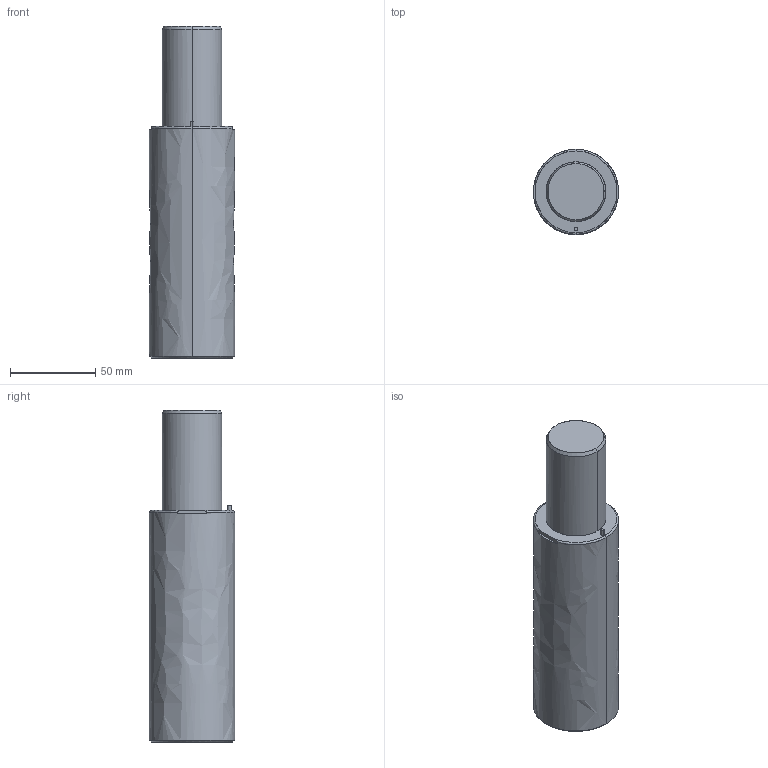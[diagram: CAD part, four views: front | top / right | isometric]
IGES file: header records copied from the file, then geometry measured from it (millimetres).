
Global section: file name: E:\UnigraphicsGraphicData\MISUMI_PRESS-PARTS\IGES\3d_gsx50-56_03981_r00.igs; native system: NX V5.0; preprocessor: UGS NX IGES V5.0; author: MISUMI; date: 20110105.160829; units: millimetre
Bounding box: 50 x 50 x 195 mm (x, y, z)
Surface area: 33245.9 mm2 (no closed solid volume)
Topology: 0 solids, 0 shells, 59 faces, 428 edges, 420 vertices
Faces by surface type: bspline 59
